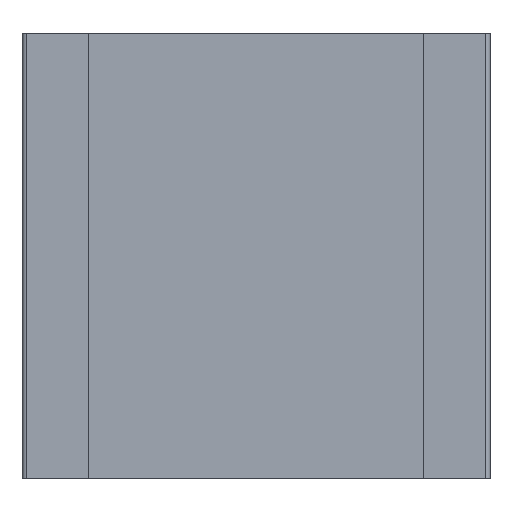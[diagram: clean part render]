
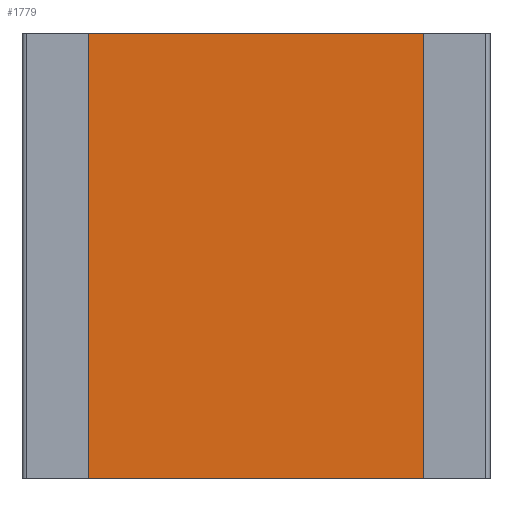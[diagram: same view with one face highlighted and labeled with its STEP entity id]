
A CAD part, front view. The second image highlights one B-rep face of the part: STEP entity #1779.
In plain terms, the highlighted planar face has unit normal (0, -1, 0).
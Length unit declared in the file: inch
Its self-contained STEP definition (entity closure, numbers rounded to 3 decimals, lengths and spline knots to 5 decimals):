
#69=FACE_OUTER_BOUND('',#167,.T.);
#167=EDGE_LOOP('',(#1178,#1179,#1180,#1181));
#265=LINE('',#2518,#497);
#270=LINE('',#2528,#502);
#271=LINE('',#2531,#503);
#272=LINE('',#2532,#504);
#497=VECTOR('',#2022,0.103);
#502=VECTOR('',#2031,0.1);
#503=VECTOR('',#2034,0.103);
#504=VECTOR('',#2035,0.1);
#726=VERTEX_POINT('',#2511);
#729=VERTEX_POINT('',#2516);
#732=VERTEX_POINT('',#2526);
#733=VERTEX_POINT('',#2530);
#905=EDGE_CURVE('',#729,#726,#265,.T.);
#910=EDGE_CURVE('',#729,#732,#270,.T.);
#911=EDGE_CURVE('',#733,#732,#271,.T.);
#912=EDGE_CURVE('',#726,#733,#272,.T.);
#1178=ORIENTED_EDGE('',*,*,#910,.T.);
#1179=ORIENTED_EDGE('',*,*,#911,.F.);
#1180=ORIENTED_EDGE('',*,*,#912,.F.);
#1181=ORIENTED_EDGE('',*,*,#905,.F.);
#1697=PLANE('',#1888);
#1779=ADVANCED_FACE('',(#69),#1697,.T.);
#1888=AXIS2_PLACEMENT_3D('',#2529,#2032,#2033);
#2022=DIRECTION('',(-1.,0.,0.));
#2031=DIRECTION('',(0.,0.,1.));
#2032=DIRECTION('center_axis',(0.,-1.,0.));
#2033=DIRECTION('ref_axis',(1.,0.,0.));
#2034=DIRECTION('',(1.,0.,0.));
#2035=DIRECTION('',(0.,0.,1.));
#2511=CARTESIAN_POINT('',(-0.0515,0.001,-0.05));
#2516=CARTESIAN_POINT('',(0.0515,0.001,-0.05));
#2518=CARTESIAN_POINT('',(-0.0515,0.001,-0.05));
#2526=CARTESIAN_POINT('',(0.0515,0.001,0.05));
#2528=CARTESIAN_POINT('',(0.0515,0.001,0.));
#2529=CARTESIAN_POINT('Origin',(-0.0515,0.001,0.));
#2530=CARTESIAN_POINT('',(-0.0515,0.001,0.05));
#2531=CARTESIAN_POINT('',(-0.0515,0.001,0.05));
#2532=CARTESIAN_POINT('',(-0.0515,0.001,0.));
